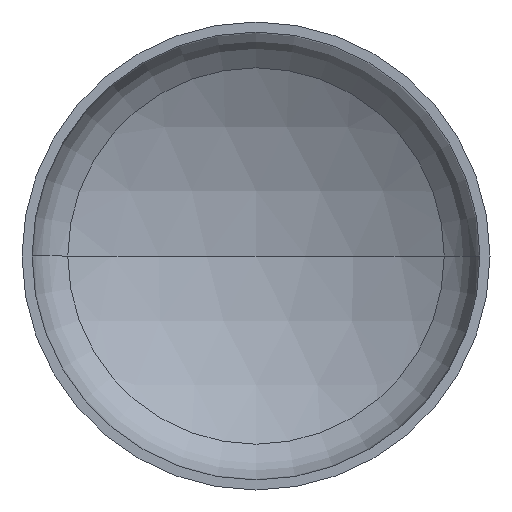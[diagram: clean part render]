
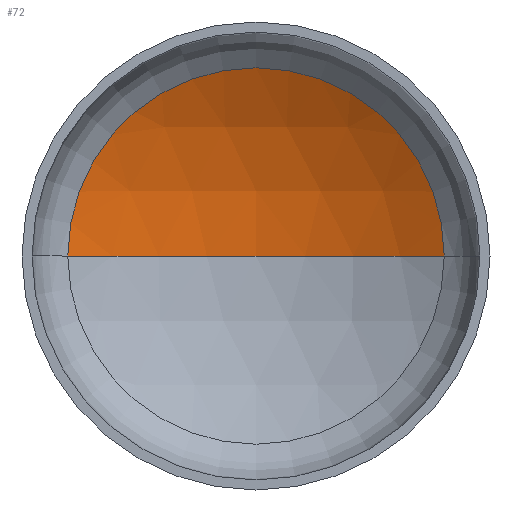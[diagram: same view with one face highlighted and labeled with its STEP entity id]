
A CAD part, front view. The second image highlights one B-rep face of the part: STEP entity #72.
In plain terms, the highlighted spherical face has radius 4400 mm.
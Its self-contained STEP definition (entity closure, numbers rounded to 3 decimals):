
#17 = DIRECTION ( 'NONE',  ( 0., -1., 0. ) ) ;
#20 = DIRECTION ( 'NONE',  ( 0., 0., -1. ) ) ;
#39 = CIRCLE ( 'NONE', #304, 4400. ) ;
#66 = AXIS2_PLACEMENT_3D ( 'NONE', #310, #20, #244 ) ;
#70 = SPHERICAL_SURFACE ( 'NONE', #114, 4400. ) ;
#72 = ADVANCED_FACE ( 'NONE', ( #311 ), #70, .F. ) ;
#85 = VERTEX_POINT ( 'NONE', #351 ) ;
#94 = CIRCLE ( 'NONE', #66, 4400. ) ;
#98 = ORIENTED_EDGE ( 'NONE', *, *, #314, .T. ) ;
#102 = DIRECTION ( 'NONE',  ( 0., 0., 1. ) ) ;
#111 = CARTESIAN_POINT ( 'NONE',  ( 0., 1401.784, 0. ) ) ;
#113 = ORIENTED_EDGE ( 'NONE', *, *, #254, .T. ) ;
#114 = AXIS2_PLACEMENT_3D ( 'NONE', #320, #350, #263 ) ;
#139 = ORIENTED_EDGE ( 'NONE', *, *, #192, .F. ) ;
#146 = VERTEX_POINT ( 'NONE', #111 ) ;
#182 = EDGE_LOOP ( 'NONE', ( #139, #98, #113 ) ) ;
#192 = EDGE_CURVE ( 'NONE', #146, #85, #39, .T. ) ;
#209 = DIRECTION ( 'NONE',  ( 1., 0., 0. ) ) ;
#216 = VERTEX_POINT ( 'NONE', #329 ) ;
#240 = CARTESIAN_POINT ( 'NONE',  ( 0., 805.483, 0. ) ) ;
#244 = DIRECTION ( 'NONE',  ( -1., 0., 0. ) ) ;
#254 = EDGE_CURVE ( 'NONE', #216, #85, #284, .T. ) ;
#263 = DIRECTION ( 'NONE',  ( -1., 0., 0. ) ) ;
#284 = CIRCLE ( 'NONE', #286, 2211.758 ) ;
#286 = AXIS2_PLACEMENT_3D ( 'NONE', #240, #17, #209 ) ;
#294 = CARTESIAN_POINT ( 'NONE',  ( 0., -2998.216, 0. ) ) ;
#304 = AXIS2_PLACEMENT_3D ( 'NONE', #294, #102, #323 ) ;
#310 = CARTESIAN_POINT ( 'NONE',  ( 0., -2998.216, 0. ) ) ;
#311 = FACE_OUTER_BOUND ( 'NONE', #182, .T. ) ;
#314 = EDGE_CURVE ( 'NONE', #146, #216, #94, .T. ) ;
#320 = CARTESIAN_POINT ( 'NONE',  ( 0., -2998.216, 0. ) ) ;
#323 = DIRECTION ( 'NONE',  ( 1., 0., 0. ) ) ;
#329 = CARTESIAN_POINT ( 'NONE',  ( 2211.758, 805.483, 0. ) ) ;
#350 = DIRECTION ( 'NONE',  ( 0., 0., -1. ) ) ;
#351 = CARTESIAN_POINT ( 'NONE',  ( -2211.758, 805.483, 0. ) ) ;
